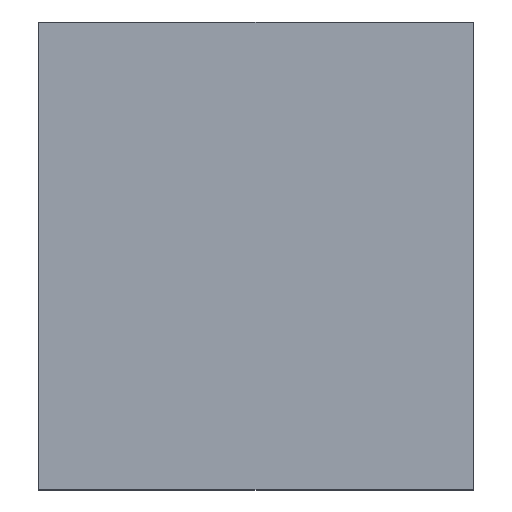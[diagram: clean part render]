
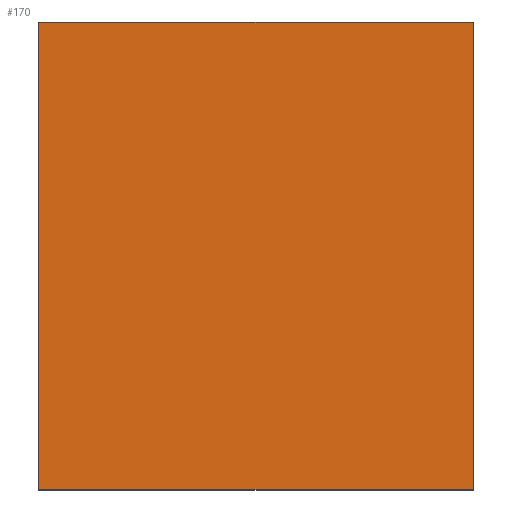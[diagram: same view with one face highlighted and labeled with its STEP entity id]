
A CAD part, top view. The second image highlights one B-rep face of the part: STEP entity #170.
In plain terms, the highlighted planar face has unit normal (0, 0, 1).
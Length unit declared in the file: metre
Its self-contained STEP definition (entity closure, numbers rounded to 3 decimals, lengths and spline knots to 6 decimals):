
#32=ORIENTED_EDGE('',*,*,#64,.F.);
#33=ORIENTED_EDGE('',*,*,#65,.F.);
#34=ORIENTED_EDGE('',*,*,#66,.F.);
#35=ORIENTED_EDGE('',*,*,#67,.F.);
#64=EDGE_CURVE('',#80,#81,#96,.T.);
#65=EDGE_CURVE('',#82,#80,#97,.T.);
#66=EDGE_CURVE('',#83,#82,#98,.T.);
#67=EDGE_CURVE('',#81,#83,#99,.T.);
#80=VERTEX_POINT('',#328);
#81=VERTEX_POINT('',#329);
#82=VERTEX_POINT('',#331);
#83=VERTEX_POINT('',#333);
#96=LINE('',#327,#116);
#97=LINE('',#330,#117);
#98=LINE('',#332,#118);
#99=LINE('',#334,#119);
#116=VECTOR('',#284,1.);
#117=VECTOR('',#285,1.);
#118=VECTOR('',#286,1.);
#119=VECTOR('',#287,1.);
#129=EDGE_LOOP('',(#32,#33,#34,#35));
#139=FACE_BOUND('',#129,.T.);
#149=PLANE('',#253);
#170=ADVANCED_FACE('',(#139),#149,.T.);
#253=AXIS2_PLACEMENT_3D('',#326,#282,#283);
#282=DIRECTION('',(0.,0.,1.));
#283=DIRECTION('',(0.,1.,0.));
#284=DIRECTION('',(-1.,0.,0.));
#285=DIRECTION('',(0.,-1.,0.));
#286=DIRECTION('',(1.,0.,0.));
#287=DIRECTION('',(0.,1.,0.));
#326=CARTESIAN_POINT('',(-0.14533,-0.036966,0.00735));
#327=CARTESIAN_POINT('',(-0.14468,-0.037666,0.00735));
#328=CARTESIAN_POINT('',(-0.14468,-0.037666,0.00735));
#329=CARTESIAN_POINT('',(-0.14598,-0.037666,0.00735));
#330=CARTESIAN_POINT('',(-0.14468,-0.036266,0.00735));
#331=CARTESIAN_POINT('',(-0.14468,-0.036266,0.00735));
#332=CARTESIAN_POINT('',(-0.14468,-0.036266,0.00735));
#333=CARTESIAN_POINT('',(-0.14598,-0.036266,0.00735));
#334=CARTESIAN_POINT('',(-0.14598,-0.036266,0.00735));
